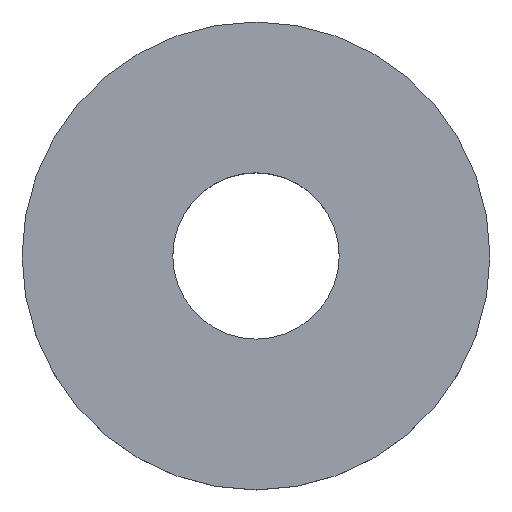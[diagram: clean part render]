
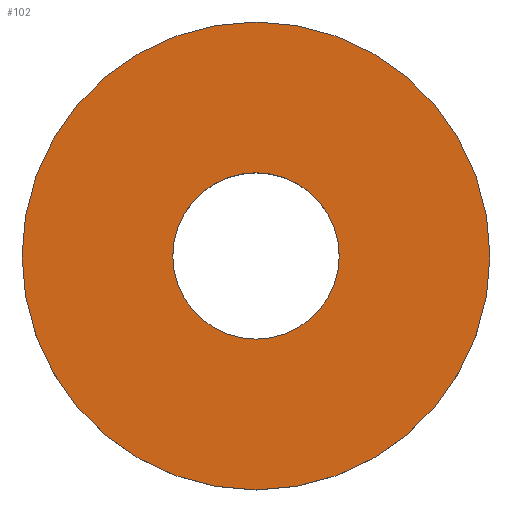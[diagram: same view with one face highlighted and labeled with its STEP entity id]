
A CAD part, top view. The second image highlights one B-rep face of the part: STEP entity #102.
In plain terms, the highlighted planar face has unit normal (0, 0, 1).
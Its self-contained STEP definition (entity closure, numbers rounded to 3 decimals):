
#29=FACE_BOUND('',#45,.T.);
#35=FACE_OUTER_BOUND('',#44,.T.);
#44=EDGE_LOOP('',(#88));
#45=EDGE_LOOP('',(#89));
#52=CIRCLE('',#128,4.5);
#53=CIRCLE('',#130,1.6);
#59=VERTEX_POINT('',#184);
#60=VERTEX_POINT('',#188);
#69=EDGE_CURVE('',#59,#59,#52,.F.);
#70=EDGE_CURVE('',#60,#60,#53,.T.);
#88=ORIENTED_EDGE('',*,*,#69,.T.);
#89=ORIENTED_EDGE('',*,*,#70,.T.);
#96=PLANE('',#129);
#102=ADVANCED_FACE('',(#35,#29),#96,.T.);
#128=AXIS2_PLACEMENT_3D('',#186,#157,#158);
#129=AXIS2_PLACEMENT_3D('',#187,#159,#160);
#130=AXIS2_PLACEMENT_3D('',#189,#161,#162);
#157=DIRECTION('center_axis',(0.,0.,-1.));
#158=DIRECTION('ref_axis',(1.,0.,0.));
#159=DIRECTION('center_axis',(0.,0.,1.));
#160=DIRECTION('ref_axis',(-1.,0.,0.));
#161=DIRECTION('center_axis',(0.,0.,-1.));
#162=DIRECTION('ref_axis',(1.,0.,0.));
#184=CARTESIAN_POINT('',(-4.5,0.,-55.));
#186=CARTESIAN_POINT('Origin',(0.,0.,
-55.));
#187=CARTESIAN_POINT('Origin',(0.,0.,
-55.));
#188=CARTESIAN_POINT('',(-1.6,0.,-55.));
#189=CARTESIAN_POINT('Origin',(0.,0.,
-55.));
